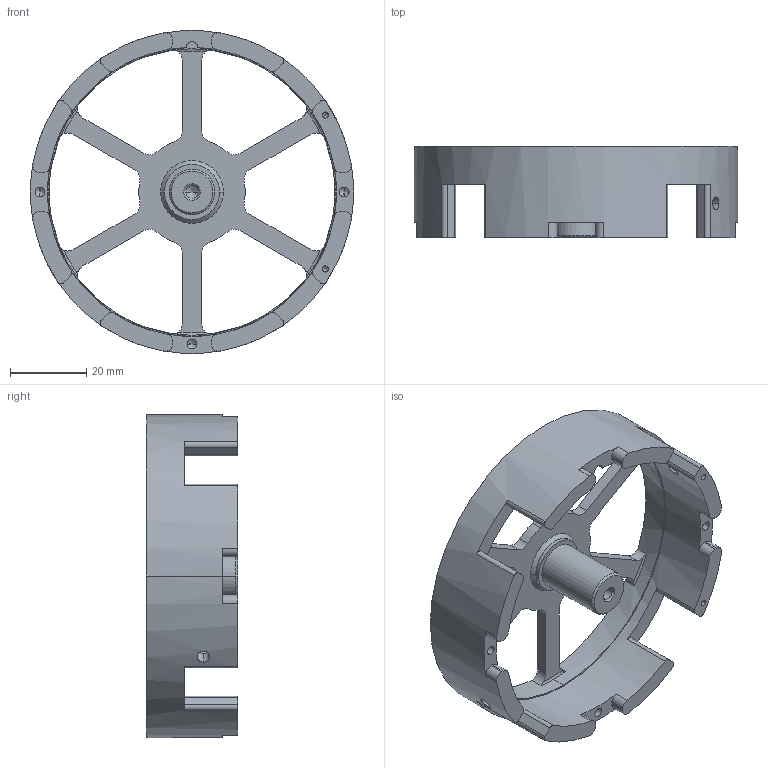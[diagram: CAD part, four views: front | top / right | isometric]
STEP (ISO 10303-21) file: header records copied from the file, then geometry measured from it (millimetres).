
FILE_DESCRIPTION(/* description */ (''),/* implementation_level */ '2;1');
FILE_NAME(/* name */ 'ri70霍尔测试外壳.prt.stp',/* time_stamp */ '2022-11-11T14:51:49+08:00',/* author */ (''),/* organization */ (''),/* preprocessor_version */ 'ST-DEVELOPER v16.7',/* originating_system */ 'SIEMENS PLM Software NX 12.0',/* authorisation */ '');
FILE_SCHEMA (('AUTOMOTIVE_DESIGN { 1 0 10303 214 3 1 1 1 }'));
Length unit declared in the file: millimetre
Products named in the file (1): ri70霍尔测试外壳
Bounding box: 85 x 24 x 85 mm (x, y, z)
Volume: 29698.2 mm3; surface area: 17877.1 mm2
Topology: 1 solids, 1 shells, 165 faces, 480 edges, 308 vertices
Faces by surface type: cylinder 91, plane 49, cone 19, torus 6
Entity records: 5792 total; most frequent: CARTESIAN_POINT 1263, DIRECTION 1010, ORIENTED_EDGE 936, EDGE_CURVE 468, AXIS2_PLACEMENT_3D 397, VERTEX_POINT 308, CIRCLE 231, LINE 216
